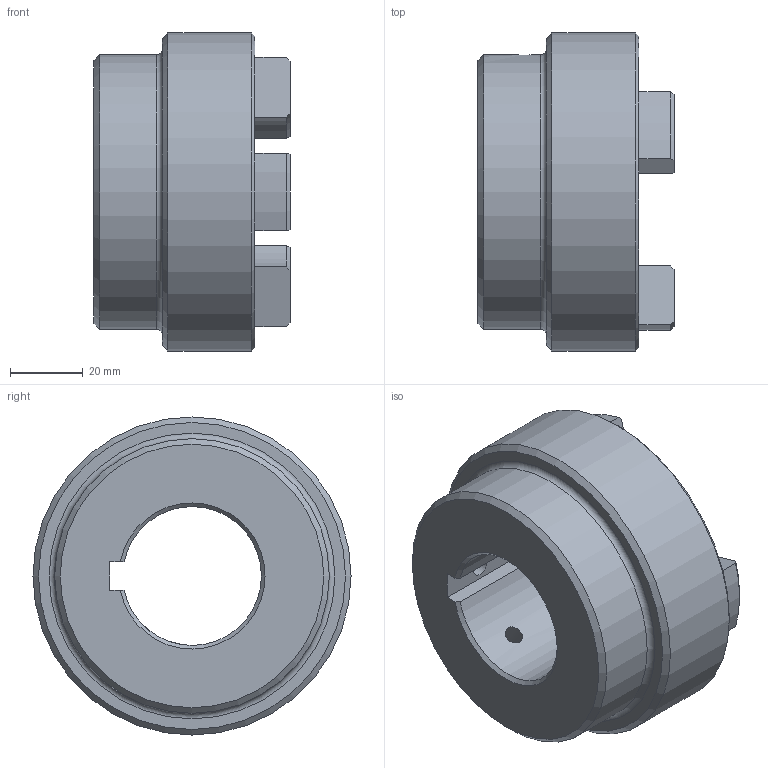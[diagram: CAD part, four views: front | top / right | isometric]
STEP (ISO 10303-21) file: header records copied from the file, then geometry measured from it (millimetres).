
FILE_DESCRIPTION (( 'STEP AP203' ), '1' );
FILE_NAME ('RC3.step', '2024-07-24T12:52:24', ( 'Adlan' ), ( '' ), 'SwSTEP 2.0', 'SolidWorks 2013', '' );
FILE_SCHEMA (( 'CONFIG_CONTROL_DESIGN' ));
Length unit declared in the file: inch
Products named in the file (1): RC3
Bounding box: 53.85 x 87.38 x 87.38 mm (x, y, z)
Volume: 157183.1 mm3; surface area: 30383.5 mm2
Topology: 1 solids, 1 shells, 67 faces, 168 edges, 105 vertices
Faces by surface type: cylinder 26, plane 16, torus 13, cone 12
Full cylindrical faces by diameter (mm): 5.105 x2, 75.438 x1, 87.376 x1
Entity records: 2241 total; most frequent: CARTESIAN_POINT 566, DIRECTION 354, ORIENTED_EDGE 310, EDGE_CURVE 155, AXIS2_PLACEMENT_3D 142, VERTEX_POINT 102, EDGE_LOOP 85, CIRCLE 74
